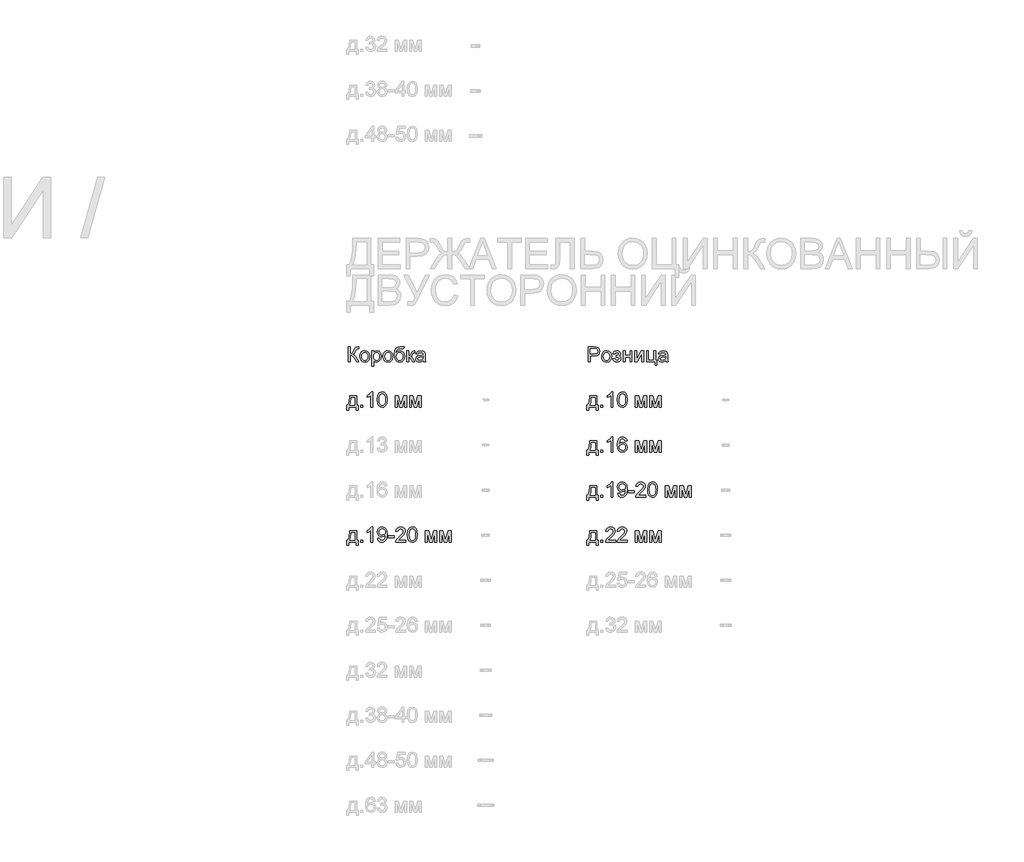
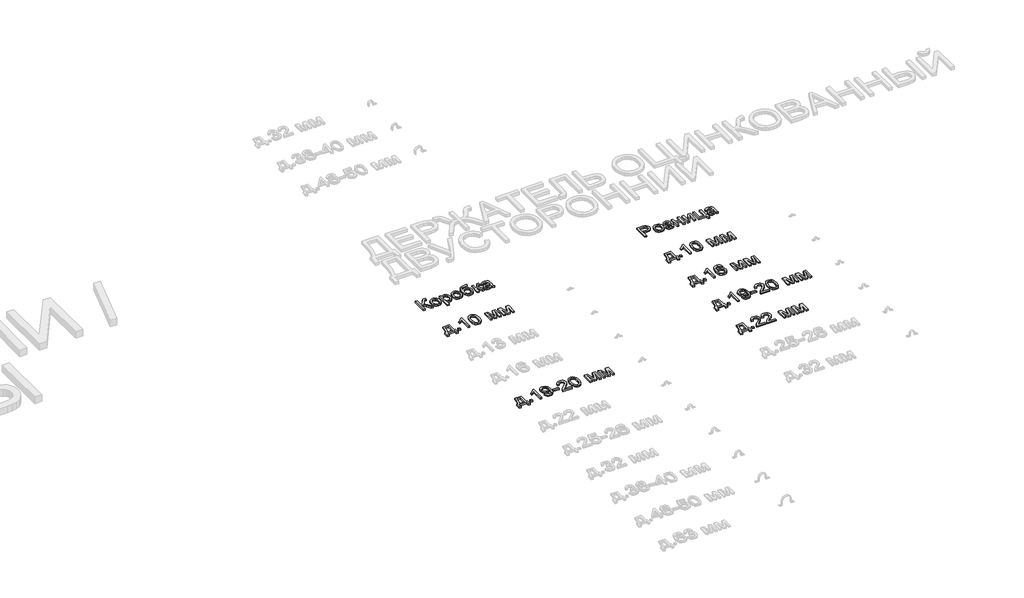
# One storey, part 34 of 98: 8 proxies.
"""IFC4 building model written with IfcOpenShell, lengths in millimetres."""

from ifc_helpers import new_model, si_unit, origin, origin_with_axes, place, context, project, spatial, polyline, outline, extrude, element, save

model = new_model("IFC4")

# Units and contexts
model_context = context("Model", 3, world=origin())
ifc_project = project(units=[si_unit("LENGTHUNIT", "METRE", prefix="MILLI")], contexts=[model_context])

# Site, building, storey
site = spatial("IfcSite", under=ifc_project)
building = spatial("IfcBuilding", under=site)
storey = spatial("IfcBuildingStorey", under=building, Name="Этаж 01", Elevation=0.0)

# Proxies
placement = place(None, origin())
element("IfcBuildingElementProxy", 1, Name="100", ObjectType="100", at=placement, inside=storey, context=model_context, shape_type="SweptSolid", body=[
    extrude(outline(polyline([(-36.4035925, -36629.705741), (-23.8465538, -36629.705741), (-23.8465538, -36673.6553767), (-9.8057243, -36670.332176), (-0.0078005, -36653.5199688), (6.9206438, -36639.4791394), (14.768793, -36632.5261697), (25.9891938, -36629.705741), (34.2297505, -36629.8528938), (34.2297505, -36642.4099326), (31.4583728, -36642.3363562), (28.6869951, -36642.2627798), (18.8768086, -36645.2794122), (11.4210668, -36658.2043329), (2.5305853, -36673.9496823), (-6.1391671, -36679.1490812), (3.5545235, -36684.8267266), (13.113324, -36696.6602641), (34.2297505, -36730.1620512), (19.6616235, -36730.1620512), (1.807084, -36701.859663), (-10.7622175, -36687.0830695), (-23.8465538, -36683.0731558), (-23.8465538, -36730.1620512), (-36.4035925, -36730.1620512), (-36.4035925, -36629.705741)])), origin_with_axes(), (0.0, 0.0, 1.0), 10.0),
    extrude(outline(polyline([(40.5082699, -36693.2757498), (43.2244653, -36675.4886553), (51.3730515, -36662.9867989), (61.4407554, -36656.8615636), (73.4950221, -36654.8198186), (86.6866574, -36657.3060877), (97.2234108, -36664.7648952), (104.1303953, -36676.6076297), (106.4327234, -36692.2456802), (102.361496, -36714.58838), (90.5034331, -36727.2312579), (73.4950221, -36731.731681), (60.1439714, -36729.2546089), (49.6194807, -36721.8233926), (42.7860726, -36709.7323377), (40.5082699, -36693.2757498)]), holes=[polyline([(53.0653087, -36693.2512243), (54.5184426, -36704.6157123), (58.8778442, -36712.7121819), (65.4384065, -36717.5590272), (73.4950221, -36719.1746422), (81.5148496, -36717.5498301), (88.0631492, -36712.6753937), (92.4225508, -36704.4716252), (93.8756847, -36692.8588169), (92.4133537, -36681.8254227), (88.026361, -36673.8393177), (81.4688644, -36668.9924724), (73.4950221, -36667.3768573), (65.4384065, -36668.9863411), (58.8778442, -36673.8147922), (54.5184426, -36681.8928677), (53.0653087, -36693.2512243)])]), origin_with_axes(), (0.0, 0.0, 1.0), 10.0),
    extrude(outline(polyline([(120.5593921, -36758.4153884), (120.5593921, -36656.3894484), (133.1164308, -36656.3894484), (133.1164308, -36668.7012325), (141.7984459, -36658.290172), (153.5216188, -36654.8198186), (169.4386465, -36659.6758609), (179.8374442, -36673.3610711), (183.3445859, -36692.7116641), (179.3837231, -36713.0555384), (167.8812794, -36726.9124269), (152.0010399, -36731.731681), (141.0749447, -36728.5065822), (133.1164308, -36720.3518646), (133.1164308, -36758.4153884), (120.5593921, -36758.4153884)]), holes=[polyline([(133.1164308, -36693.864361), (134.4745285, -36705.12155), (138.5488216, -36712.9942247), (144.5606266, -36717.6295379), (151.7312598, -36719.1746422), (159.018389, -36717.5743556), (165.1834781, -36712.7734955), (169.3865299, -36704.6126466), (170.7875471, -36692.9323933), (169.4202524, -36681.7365179), (165.3183681, -36673.7534786), (159.3157603, -36668.9710126), (152.2462946, -36667.3768573), (145.1492378, -36669.0721802), (138.9167036, -36674.1581488), (134.566499, -36682.4753475), (133.1164308, -36693.864361)])]), origin_with_axes(), (0.0, 0.0, 1.0), 10.0),
    extrude(outline(polyline([(194.3319948, -36693.2757498), (197.0481902, -36675.4886553), (205.1967764, -36662.9867989), (215.2644804, -36656.8615636), (227.3187471, -36654.8198186), (240.5103823, -36657.3060877), (251.0471358, -36664.7648952), (257.9541202, -36676.6076297), (260.2564484, -36692.2456802), (256.185221, -36714.58838), (244.327158, -36727.2312579), (227.3187471, -36731.731681), (213.9676963, -36729.2546089), (203.4432056, -36721.8233926), (196.6097975, -36709.7323377), (194.3319948, -36693.2757498)]), holes=[polyline([(206.8890336, -36693.2512243), (208.3421675, -36704.6157123), (212.7015691, -36712.7121819), (219.2621314, -36717.5590272), (227.3187471, -36719.1746422), (235.3385746, -36717.5498301), (241.8868741, -36712.6753937), (246.2462757, -36704.4716252), (247.6994096, -36692.8588169), (246.2370787, -36681.8254227), (241.8500859, -36673.8393177), (235.2925893, -36668.9924724), (227.3187471, -36667.3768573), (219.2621314, -36668.9863411), (212.7015691, -36673.8147922), (208.3421675, -36681.8928677), (206.8890336, -36693.2512243)])]), origin_with_axes(), (0.0, 0.0, 1.0), 10.0),
    extrude(outline(polyline([(326.1809019, -36628.1361112), (337.1683108, -36628.1361112), (333.9309493, -36637.934035), (327.5298025, -36641.4779649), (312.1523351, -36642.2627798), (291.4405788, -36645.1567848), (283.4943277, -36654.4274111), (280.8087892, -36670.8349481), (291.6858335, -36658.8174696), (305.7021375, -36654.8198186), (318.7680797, -36657.36127), (329.3692125, -36664.9856244), (336.3957586, -36676.9448549), (338.7379407, -36692.4909349), (334.0903648, -36714.0978707), (323.0661677, -36727.1331561), (305.7021375, -36731.731681), (294.3683064, -36730.250956), (285.873298, -36725.8087809), (275.0207791, -36710.6520427), (271.2438573, -36678.4868936), (273.6258932, -36654.3936886), (280.772001, -36639.6998686), (292.8599902, -36632.2042729), (310.0676705, -36629.705741), (324.0471863, -36629.4236982), (326.1809019, -36628.1361112)]), holes=[polyline([(326.1809019, -36692.0985274), (324.8197385, -36682.2178302), (320.7362484, -36674.3053016), (314.1756861, -36669.1089684), (305.3833064, -36667.3768573), (296.2169134, -36669.2070703), (289.4172278, -36674.697709), (285.204979, -36683.2478997), (283.8008961, -36694.2567684), (285.3521318, -36704.928412), (290.005839, -36712.7612328), (296.9342833, -36717.5712899), (305.30973, -36719.1746422), (313.7280964, -36717.3199039), (320.3928918, -36711.7556887), (324.7338994, -36703.1319216), (326.1809019, -36692.0985274)])]), origin_with_axes(), (0.0, 0.0, 1.0), 10.0),
    extrude(outline(polyline([(354.4342391, -36656.3894484), (366.9912779, -36656.3894484), (366.9912779, -36687.7820453), (375.4035129, -36685.5257024), (382.2951689, -36672.3800525), (388.0218653, -36661.0370243), (393.0741114, -36657.3459416), (402.2588985, -36656.3894484), (404.6623942, -36656.3894484), (404.6623942, -36669.0200636), (401.2778798, -36668.9464872), (395.1465133, -36670.2708624), (390.8300312, -36678.5359445), (385.7655224, -36687.475477), (378.6653999, -36691.8532727), (386.5871255, -36696.7399719), (394.3616983, -36707.0345364), (407.8016539, -36730.1620512), (393.5278325, -36730.1620512), (380.3576571, -36707.5250457), (373.7357811, -36697.9478511), (366.9912779, -36695.6301946), (366.9912779, -36730.1620512), (354.4342391, -36730.1620512), (354.4342391, -36656.3894484)])), origin_with_axes(), (0.0, 0.0, 1.0), 10.0),
    extrude(outline(polyline([(462.7386985, -36720.7442721), (450.5618045, -36729.2546089), (437.1095862, -36731.731681), (426.6157523, -36730.2417589), (418.874902, -36725.7719927), (414.1016331, -36718.9845699), (412.5105434, -36710.5416781), (414.9140391, -36700.6088642), (421.2293467, -36693.3983771), (430.0217264, -36689.2780988), (440.886508, -36687.3896379), (462.6651221, -36683.0731558), (462.7386985, -36680.2772526), (459.2806078, -36671.0066263), (445.3991938, -36667.3768573), (432.6950022, -36669.7926158), (426.637212, -36678.3642663), (414.0801733, -36676.7946364), (419.5125641, -36664.5319032), (430.4509221, -36657.3459416), (447.0178746, -36654.8198186), (462.2359264, -36657.051636), (470.8321024, -36662.6557051), (474.6826006, -36671.1783046), (475.2957373, -36682.1657135), (475.2957373, -36697.7884356), (475.9333994, -36719.6038379), (478.434997, -36730.1620512), (465.8779582, -36730.1620512), (462.7386985, -36720.7442721)]), holes=[polyline([(462.7386985, -36695.6301946), (442.4806633, -36699.4806928), (431.6771954, -36701.5163065), (426.7843648, -36704.8272444), (425.0675822, -36709.6587613), (428.8077158, -36716.4523155), (439.782862, -36719.1746422), (452.4870536, -36716.1702726), (460.6785593, -36708.8984719), (462.6651221, -36699.1863872), (462.7386985, -36695.6301946)])]), origin_with_axes(), (0.0, 0.0, 1.0), 10.0),
])
element("IfcBuildingElementProxy", 2, Name="100", ObjectType="100", at=placement, inside=storey, context=model_context, shape_type="SweptSolid", body=[
    extrude(outline(polyline([(-26.9858135, -36956.3894484), (20.1030819, -36956.3894484), (20.1030819, -37017.6050124), (29.520861, -37017.6050124), (29.520861, -37050.5672392), (16.9638222, -37050.5672392), (16.9638222, -37030.1620512), (-34.8339627, -37030.1620512), (-34.8339627, -37050.5672392), (-47.3910015, -37050.5672392), (-47.3910015, -37017.6050124), (-39.5428522, -37017.6050124), (-29.8430303, -36993.6558945), (-26.9858135, -36956.3894484)]), holes=[polyline([(-15.9984045, -36968.9464872), (-18.9414605, -36997.5554437), (-25.4161836, -37017.6050124), (7.5460431, -37017.6050124), (7.5460431, -36968.9464872), (-15.9984045, -36968.9464872)])]), origin_with_axes(), (0.0, 0.0, 1.0), 10.0),
    extrude(outline(polyline([(46.7867893, -37030.1620512), (46.7867893, -37017.6050124), (59.3438281, -37017.6050124), (59.3438281, -37030.1620512), (46.7867893, -37030.1620512)])), origin_with_axes(), (0.0, 0.0, 1.0), 10.0),
    extrude(outline(polyline([(126.8379114, -37030.1620512), (114.2808727, -37030.1620512), (114.2808727, -36951.8767626), (102.3860215, -36960.3503112), (89.1667951, -36966.6901443), (89.1667951, -36954.8198186), (107.5731576, -36943.0721202), (118.7445076, -36929.705741), (126.8379114, -36929.705741), (126.8379114, -37030.1620512)])), origin_with_axes(), (0.0, 0.0, 1.0), 10.0),
    extrude(outline(polyline([(156.6608785, -36980.7432365), (160.3519612, -36951.8399744), (171.3148447, -36935.17492), (189.6231053, -36929.705741), (204.2893342, -36932.9431026), (214.4183518, -36942.2750425), (220.3044637, -36957.1374751), (222.5853321, -36980.7432365), (218.9310376, -37009.5238712), (208.0049423, -37026.2257138), (199.7735827, -37030.3551892), (189.6231053, -37031.731681), (176.5755572, -37029.340448), (166.6672688, -37022.1667491), (159.1624761, -37005.1767323), (156.6608785, -36980.7432365)]), holes=[polyline([(169.2179173, -36980.718711), (170.6894453, -37000.4709085), (175.1040292, -37011.9028415), (181.6768542, -37017.3566921), (189.6231053, -37019.1746422), (197.5693564, -37017.3505607), (204.1421814, -37011.878316), (208.5567653, -37000.4402516), (210.0282933, -36980.718711), (208.6058162, -36961.4110376), (204.3383851, -36949.8901998), (197.7778228, -36944.1696348), (189.4759525, -36942.2627798), (181.6155405, -36943.9427742), (175.3002329, -36948.9827576), (170.7384962, -36961.2209653), (169.2179173, -36980.718711)])]), origin_with_axes(), (0.0, 0.0, 1.0), 10.0),
    extrude(outline(polyline([(275.9527468, -36956.3894484), (297.5596827, -36956.3894484), (314.2124743, -37015.4467714), (332.1651157, -36956.3894484), (352.8646093, -36956.3894484), (352.8646093, -37030.1620512), (340.3075705, -37030.1620512), (340.3075705, -36970.7613717), (322.2568273, -37030.1620512), (305.7757139, -37030.1620512), (288.5097856, -36967.9164176), (288.5097856, -37030.1620512), (275.9527468, -37030.1620512), (275.9527468, -36956.3894484)])), origin_with_axes(), (0.0, 0.0, 1.0), 10.0),
    extrude(outline(polyline([(371.7001674, -36956.3894484), (393.3071033, -36956.3894484), (409.9598949, -37015.4467714), (427.9125363, -36956.3894484), (448.6120299, -36956.3894484), (448.6120299, -37030.1620512), (436.0549911, -37030.1620512), (436.0549911, -36970.7613717), (418.0042479, -37030.1620512), (401.5231345, -37030.1620512), (384.2572062, -36967.9164176), (384.2572062, -37030.1620512), (371.7001674, -37030.1620512), (371.7001674, -36956.3894484)])), origin_with_axes(), (0.0, 0.0, 1.0), 10.0),
])
element("IfcBuildingElementProxy", 3, Name="100", ObjectType="100", at=placement, inside=storey, context=model_context, shape_type="SweptSolid", body=[
    extrude(outline(polyline([(-26.9858135, -37856.3894484), (20.1030819, -37856.3894484), (20.1030819, -37917.6050124), (29.520861, -37917.6050124), (29.520861, -37950.5672392), (16.9638222, -37950.5672392), (16.9638222, -37930.1620512), (-34.8339627, -37930.1620512), (-34.8339627, -37950.5672392), (-47.3910015, -37950.5672392), (-47.3910015, -37917.6050124), (-39.5428522, -37917.6050124), (-29.8430303, -37893.6558945), (-26.9858135, -37856.3894484)]), holes=[polyline([(-15.9984045, -37868.9464872), (-18.9414605, -37897.5554437), (-25.4161836, -37917.6050124), (7.5460431, -37917.6050124), (7.5460431, -37868.9464872), (-15.9984045, -37868.9464872)])]), origin_with_axes(), (0.0, 0.0, 1.0), 10.0),
    extrude(outline(polyline([(46.7867893, -37930.1620512), (46.7867893, -37917.6050124), (59.3438281, -37917.6050124), (59.3438281, -37930.1620512), (46.7867893, -37930.1620512)])), origin_with_axes(), (0.0, 0.0, 1.0), 10.0),
    extrude(outline(polyline([(126.8379114, -37930.1620512), (114.2808727, -37930.1620512), (114.2808727, -37851.8767626), (102.3860215, -37860.3503112), (89.1667951, -37866.6901443), (89.1667951, -37854.8198186), (107.5731576, -37843.0721202), (118.7445076, -37829.705741), (126.8379114, -37829.705741), (126.8379114, -37930.1620512)])), origin_with_axes(), (0.0, 0.0, 1.0), 10.0),
    extrude(outline(polyline([(158.2305084, -37905.0479736), (170.7875471, -37903.4783438), (176.4284044, -37915.4590341), (187.1215077, -37919.1746422), (197.2873135, -37916.7834093), (204.1789696, -37910.3945253), (208.2869852, -37899.4806928), (210.1018697, -37884.9125658), (210.0282933, -37882.4600191), (199.9851148, -37891.9759001), (186.2140655, -37895.6301946), (174.7637384, -37893.3983771), (165.232529, -37886.7029248), (158.8037911, -37876.3593094), (156.6608785, -37863.1830026), (158.9080244, -37849.5713688), (165.6494619, -37838.9027909), (175.7754139, -37832.0050035), (188.1761028, -37829.705741), (206.0674305, -37834.9541908), (218.3792146, -37849.9147253), (222.5853321, -37878.0209097), (218.3914773, -37908.5183271), (213.17675, -37918.509389), (205.9202777, -37925.7965182), (196.9347599, -37930.2478903), (186.5328965, -37931.731681), (175.7968736, -37929.9811759), (167.2313545, -37924.7296604), (161.2410094, -37916.3082284), (158.2305084, -37905.0479736)]), holes=[polyline([(210.0282933, -37862.888697), (208.6732613, -37854.3783602), (204.6081652, -37847.8300607), (198.298989, -37843.6546), (190.2117165, -37842.2627798), (181.824007, -37843.7618989), (175.1040292, -37848.2592563), (170.6894453, -37855.1417153), (169.2179173, -37863.7961392), (170.6097375, -37871.5553837), (174.7851982, -37877.7143414), (181.339629, -37881.7334522), (189.86836, -37883.0731558), (204.3506478, -37877.7143414), (208.6088819, -37871.3285231), (210.0282933, -37862.888697)])]), origin_with_axes(), (0.0, 0.0, 1.0), 10.0),
    extrude(outline(polyline([(230.4334813, -37900.3390841), (230.4334813, -37887.7820453), (269.6742274, -37887.7820453), (269.6742274, -37900.3390841), (230.4334813, -37900.3390841)])), origin_with_axes(), (0.0, 0.0, 1.0), 10.0),
    extrude(outline(polyline([(345.0164601, -37917.6050124), (345.0164601, -37930.1620512), (279.0920065, -37930.1620512), (280.4409072, -37921.5045616), (288.0683272, -37908.1749706), (303.7891511, -37893.6191063), (325.4696634, -37872.6988835), (330.8897914, -37858.474113), (325.7762317, -37846.9594066), (312.4221153, -37842.2627798), (298.5039131, -37846.849042), (293.2186751, -37859.5287081), (280.6616364, -37857.9590783), (283.7058599, -37845.812841), (290.2878819, -37836.9407536), (300.0643459, -37831.5144942), (312.6918954, -37829.705741), (325.4114154, -37831.7168293), (335.1694853, -37837.750094), (341.377494, -37846.7632029), (343.4468302, -37857.7138236), (341.2150128, -37869.6209375), (333.7960592, -37881.9327216), (315.8066296, -37899.1373362), (301.36113, -37911.2161284), (295.6957472, -37917.6050124), (345.0164601, -37917.6050124)])), origin_with_axes(), (0.0, 0.0, 1.0), 10.0),
    extrude(outline(polyline([(357.5734988, -37880.7432365), (361.2645815, -37851.8399744), (372.227465, -37835.17492), (390.5357256, -37829.705741), (405.2019545, -37832.9431026), (415.3309721, -37842.2750425), (421.217084, -37857.1374751), (423.4979524, -37880.7432365), (419.8436579, -37909.5238712), (408.9175626, -37926.2257138), (400.686203, -37930.3551892), (390.5357256, -37931.731681), (377.4881775, -37929.340448), (367.5798891, -37922.1667491), (360.0750964, -37905.1767323), (357.5734988, -37880.7432365)]), holes=[polyline([(370.1305376, -37880.718711), (371.6020656, -37900.4709085), (376.0166495, -37911.9028415), (382.5894745, -37917.3566921), (390.5357256, -37919.1746422), (398.4819767, -37917.3505607), (405.0548017, -37911.878316), (409.4693856, -37900.4402516), (410.9409136, -37880.718711), (409.5184365, -37861.4110376), (405.2510054, -37849.8901998), (398.6904431, -37844.1696348), (390.3885728, -37842.2627798), (382.5281608, -37843.9427742), (376.2128532, -37848.9827576), (371.6511165, -37861.2209653), (370.1305376, -37880.718711)])]), origin_with_axes(), (0.0, 0.0, 1.0), 10.0),
    extrude(outline(polyline([(476.8653671, -37856.3894484), (498.472303, -37856.3894484), (515.1250946, -37915.4467714), (533.077736, -37856.3894484), (553.7772296, -37856.3894484), (553.7772296, -37930.1620512), (541.2201908, -37930.1620512), (541.2201908, -37870.7613717), (523.1694476, -37930.1620512), (506.6883342, -37930.1620512), (489.4224059, -37867.9164176), (489.4224059, -37930.1620512), (476.8653671, -37930.1620512), (476.8653671, -37856.3894484)])), origin_with_axes(), (0.0, 0.0, 1.0), 10.0),
    extrude(outline(polyline([(572.6127877, -37856.3894484), (594.2197236, -37856.3894484), (610.8725152, -37915.4467714), (628.8251566, -37856.3894484), (649.5246502, -37856.3894484), (649.5246502, -37930.1620512), (636.9676114, -37930.1620512), (636.9676114, -37870.7613717), (618.9168682, -37930.1620512), (602.4357548, -37930.1620512), (585.1698265, -37867.9164176), (585.1698265, -37930.1620512), (572.6127877, -37930.1620512), (572.6127877, -37856.3894484)])), origin_with_axes(), (0.0, 0.0, 1.0), 10.0),
])
element("IfcBuildingElementProxy", 4, Name="100", ObjectType="100", at=placement, inside=storey, context=model_context, shape_type="SweptSolid", body=[
    extrude(outline(polyline([(1563.5964075, -36730.1620512), (1563.5964075, -36629.705741), (1600.8260654, -36629.705741), (1615.8356508, -36630.6622342), (1628.0370703, -36635.358861), (1635.9465332, -36645.0709457), (1638.9386401, -36658.7684186), (1636.9183548, -36670.6080875), (1630.8574989, -36680.4734564), (1619.5236678, -36687.1321205), (1601.6844567, -36689.3516752), (1576.1534462, -36689.3516752), (1576.1534462, -36730.1620512), (1563.5964075, -36730.1620512)]), holes=[polyline([(1576.1534462, -36676.7946364), (1602.4202207, -36676.7946364), (1620.9124223, -36672.1838487), (1625.0143065, -36666.634962), (1626.3816013, -36659.209877), (1623.1565025, -36648.8110793), (1614.6829538, -36643.1211711), (1602.1259151, -36642.2627798), (1576.1534462, -36642.2627798), (1576.1534462, -36676.7946364)])]), origin_with_axes(), (0.0, 0.0, 1.0), 10.0),
    extrude(outline(polyline([(1651.4956788, -36693.2757498), (1654.2118742, -36675.4886553), (1662.3604604, -36662.9867989), (1672.4281644, -36656.8615636), (1684.4824311, -36654.8198186), (1697.6740663, -36657.3060877), (1708.2108198, -36664.7648952), (1715.1178042, -36676.6076297), (1717.4201324, -36692.2456802), (1713.348905, -36714.58838), (1701.490842, -36727.2312579), (1684.4824311, -36731.731681), (1671.1313803, -36729.2546089), (1660.6068896, -36721.8233926), (1653.7734815, -36709.7323377), (1651.4956788, -36693.2757498)]), holes=[polyline([(1664.0527176, -36693.2512243), (1665.5058515, -36704.6157123), (1669.8652531, -36712.7121819), (1676.4258154, -36717.5590272), (1684.4824311, -36719.1746422), (1692.5022586, -36717.5498301), (1699.0505581, -36712.6753937), (1703.4099597, -36704.4716252), (1704.8630936, -36692.8588169), (1703.4007627, -36681.8254227), (1699.0137699, -36673.8393177), (1692.4562733, -36668.9924724), (1684.4824311, -36667.3768573), (1676.4258154, -36668.9863411), (1669.8652531, -36673.8147922), (1665.5058515, -36681.8928677), (1664.0527176, -36693.2512243)])]), origin_with_axes(), (0.0, 0.0, 1.0), 10.0),
    extrude(outline(polyline([(1748.8127293, -36697.1998244), (1748.8127293, -36684.6427856), (1758.7210177, -36684.1522763), (1763.7242128, -36681.5403141), (1766.0786576, -36676.0833979), (1762.9271352, -36669.7435648), (1754.7969431, -36667.3768573), (1746.3969709, -36669.7313021), (1740.9645801, -36676.7946364), (1726.8379114, -36675.2250066), (1736.280216, -36659.9211156), (1753.5216188, -36654.8198186), (1764.0185184, -36656.37412), (1771.9647695, -36661.0370243), (1776.9679647, -36667.8581696), (1778.6356964, -36675.8871942), (1776.2628575, -36683.6862924), (1769.1443409, -36689.7195572), (1777.4462112, -36697.5431809), (1780.2053262, -36708.80037), (1778.4548211, -36718.0434051), (1773.2033056, -36725.3673225), (1764.806399, -36730.1405914), (1753.6197207, -36731.731681), (1742.678297, -36730.260153), (1734.3059159, -36725.8455691), (1728.5025775, -36718.4879292), (1725.2682816, -36708.1872333), (1739.3949502, -36706.6176035), (1745.0603329, -36715.8882298), (1754.8214685, -36719.1746422), (1763.993993, -36716.0231198), (1767.6482874, -36707.9665041), (1765.3796818, -36701.3691537), (1760.5481649, -36697.8374865), (1751.2652759, -36697.126248), (1748.8127293, -36697.1998244)])), origin_with_axes(), (0.0, 0.0, 1.0), 10.0),
    extrude(outline(polyline([(1795.9016247, -36656.3894484), (1808.4586634, -36656.3894484), (1808.4586634, -36684.6427856), (1841.4208902, -36684.6427856), (1841.4208902, -36656.3894484), (1853.977929, -36656.3894484), (1853.977929, -36730.1620512), (1841.4208902, -36730.1620512), (1841.4208902, -36697.1998244), (1808.4586634, -36697.1998244), (1808.4586634, -36730.1620512), (1795.9016247, -36730.1620512), (1795.9016247, -36656.3894484)])), origin_with_axes(), (0.0, 0.0, 1.0), 10.0),
    extrude(outline(polyline([(1872.8134871, -36656.3894484), (1885.3705259, -36656.3894484), (1885.3705259, -36712.6508682), (1916.2235626, -36656.3894484), (1932.4594213, -36656.3894484), (1932.4594213, -36730.1620512), (1919.9023825, -36730.1620512), (1919.9023825, -36674.2439879), (1889.2455496, -36730.1620512), (1872.8134871, -36730.1620512), (1872.8134871, -36656.3894484)])), origin_with_axes(), (0.0, 0.0, 1.0), 10.0),
    extrude(outline(polyline([(1951.2949794, -36656.3894484), (1963.8520182, -36656.3894484), (1963.8520182, -36717.6050124), (1999.9535047, -36717.6050124), (1999.9535047, -36656.3894484), (2012.5105434, -36656.3894484), (2012.5105434, -36717.6050124), (2020.3586927, -36717.6050124), (2020.3586927, -36750.5672392), (2007.8016539, -36750.5672392), (2007.8016539, -36730.1620512), (1951.2949794, -36730.1620512), (1951.2949794, -36656.3894484)])), origin_with_axes(), (0.0, 0.0, 1.0), 10.0),
    extrude(outline(polyline([(2078.434997, -36720.7442721), (2066.2581029, -36729.2546089), (2052.8058846, -36731.731681), (2042.3120507, -36730.2417589), (2034.5712004, -36725.7719927), (2029.7979315, -36718.9845699), (2028.2068419, -36710.5416781), (2030.6103376, -36700.6088642), (2036.9256452, -36693.3983771), (2045.7180249, -36689.2780988), (2056.5828065, -36687.3896379), (2078.3614206, -36683.0731558), (2078.434997, -36680.2772526), (2074.9769062, -36671.0066263), (2061.0954923, -36667.3768573), (2048.3913007, -36669.7926158), (2042.3335105, -36678.3642663), (2029.7764717, -36676.7946364), (2035.2088625, -36664.5319032), (2046.1472205, -36657.3459416), (2062.714173, -36654.8198186), (2077.9322249, -36657.051636), (2086.5284009, -36662.6557051), (2090.3788991, -36671.1783046), (2090.9920357, -36682.1657135), (2090.9920357, -36697.7884356), (2091.6296979, -36719.6038379), (2094.1312954, -36730.1620512), (2081.5742567, -36730.1620512), (2078.434997, -36720.7442721)]), holes=[polyline([(2078.434997, -36695.6301946), (2058.1769618, -36699.4806928), (2047.3734938, -36701.5163065), (2042.4806633, -36704.8272444), (2040.7638807, -36709.6587613), (2044.5040143, -36716.4523155), (2055.4791605, -36719.1746422), (2068.183352, -36716.1702726), (2076.3748578, -36708.8984719), (2078.3614206, -36699.1863872), (2078.434997, -36695.6301946)])]), origin_with_axes(), (0.0, 0.0, 1.0), 10.0),
])
element("IfcBuildingElementProxy", 5, Name="100", ObjectType="100", at=placement, inside=storey, context=model_context, shape_type="SweptSolid", body=[
    extrude(outline(polyline([(1573.0141865, -36956.3894484), (1620.1030819, -36956.3894484), (1620.1030819, -37017.6050124), (1629.520861, -37017.6050124), (1629.520861, -37050.5672392), (1616.9638222, -37050.5672392), (1616.9638222, -37030.1620512), (1565.1660373, -37030.1620512), (1565.1660373, -37050.5672392), (1552.6089985, -37050.5672392), (1552.6089985, -37017.6050124), (1560.4571478, -37017.6050124), (1570.1569697, -36993.6558945), (1573.0141865, -36956.3894484)]), holes=[polyline([(1584.0015955, -36968.9464872), (1581.0585395, -36997.5554437), (1574.5838164, -37017.6050124), (1607.5460431, -37017.6050124), (1607.5460431, -36968.9464872), (1584.0015955, -36968.9464872)])]), origin_with_axes(), (0.0, 0.0, 1.0), 10.0),
    extrude(outline(polyline([(1646.7867893, -37030.1620512), (1646.7867893, -37017.6050124), (1659.3438281, -37017.6050124), (1659.3438281, -37030.1620512), (1646.7867893, -37030.1620512)])), origin_with_axes(), (0.0, 0.0, 1.0), 10.0),
    extrude(outline(polyline([(1726.8379114, -37030.1620512), (1714.2808727, -37030.1620512), (1714.2808727, -36951.8767626), (1702.3860215, -36960.3503112), (1689.1667951, -36966.6901443), (1689.1667951, -36954.8198186), (1707.5731576, -36943.0721202), (1718.7445076, -36929.705741), (1726.8379114, -36929.705741), (1726.8379114, -37030.1620512)])), origin_with_axes(), (0.0, 0.0, 1.0), 10.0),
    extrude(outline(polyline([(1756.6608785, -36980.7432365), (1760.3519612, -36951.8399744), (1771.3148447, -36935.17492), (1789.6231053, -36929.705741), (1804.2893342, -36932.9431026), (1814.4183518, -36942.2750425), (1820.3044637, -36957.1374751), (1822.5853321, -36980.7432365), (1818.9310376, -37009.5238712), (1808.0049423, -37026.2257138), (1799.7735827, -37030.3551892), (1789.6231053, -37031.731681), (1776.5755572, -37029.340448), (1766.6672688, -37022.1667491), (1759.1624761, -37005.1767323), (1756.6608785, -36980.7432365)]), holes=[polyline([(1769.2179173, -36980.718711), (1770.6894453, -37000.4709085), (1775.1040292, -37011.9028415), (1781.6768542, -37017.3566921), (1789.6231053, -37019.1746422), (1797.5693564, -37017.3505607), (1804.1421814, -37011.878316), (1808.5567653, -37000.4402516), (1810.0282933, -36980.718711), (1808.6058162, -36961.4110376), (1804.3383851, -36949.8901998), (1797.7778228, -36944.1696348), (1789.4759525, -36942.2627798), (1781.6155405, -36943.9427742), (1775.3002329, -36948.9827576), (1770.7384962, -36961.2209653), (1769.2179173, -36980.718711)])]), origin_with_axes(), (0.0, 0.0, 1.0), 10.0),
    extrude(outline(polyline([(1875.9527468, -36956.3894484), (1897.5596827, -36956.3894484), (1914.2124743, -37015.4467714), (1932.1651157, -36956.3894484), (1952.8646093, -36956.3894484), (1952.8646093, -37030.1620512), (1940.3075705, -37030.1620512), (1940.3075705, -36970.7613717), (1922.2568273, -37030.1620512), (1905.7757139, -37030.1620512), (1888.5097856, -36967.9164176), (1888.5097856, -37030.1620512), (1875.9527468, -37030.1620512), (1875.9527468, -36956.3894484)])), origin_with_axes(), (0.0, 0.0, 1.0), 10.0),
    extrude(outline(polyline([(1971.7001674, -36956.3894484), (1993.3071033, -36956.3894484), (2009.9598949, -37015.4467714), (2027.9125363, -36956.3894484), (2048.6120299, -36956.3894484), (2048.6120299, -37030.1620512), (2036.0549911, -37030.1620512), (2036.0549911, -36970.7613717), (2018.0042479, -37030.1620512), (2001.5231345, -37030.1620512), (1984.2572062, -36967.9164176), (1984.2572062, -37030.1620512), (1971.7001674, -37030.1620512), (1971.7001674, -36956.3894484)])), origin_with_axes(), (0.0, 0.0, 1.0), 10.0),
])
element("IfcBuildingElementProxy", 6, Name="100", ObjectType="100", at=placement, inside=storey, context=model_context, shape_type="SweptSolid", body=[
    extrude(outline(polyline([(1573.0141865, -37256.3894484), (1620.1030819, -37256.3894484), (1620.1030819, -37317.6050124), (1629.520861, -37317.6050124), (1629.520861, -37350.5672392), (1616.9638222, -37350.5672392), (1616.9638222, -37330.1620512), (1565.1660373, -37330.1620512), (1565.1660373, -37350.5672392), (1552.6089985, -37350.5672392), (1552.6089985, -37317.6050124), (1560.4571478, -37317.6050124), (1570.1569697, -37293.6558945), (1573.0141865, -37256.3894484)]), holes=[polyline([(1584.0015955, -37268.9464872), (1581.0585395, -37297.5554437), (1574.5838164, -37317.6050124), (1607.5460431, -37317.6050124), (1607.5460431, -37268.9464872), (1584.0015955, -37268.9464872)])]), origin_with_axes(), (0.0, 0.0, 1.0), 10.0),
    extrude(outline(polyline([(1646.7867893, -37330.1620512), (1646.7867893, -37317.6050124), (1659.3438281, -37317.6050124), (1659.3438281, -37330.1620512), (1646.7867893, -37330.1620512)])), origin_with_axes(), (0.0, 0.0, 1.0), 10.0),
    extrude(outline(polyline([(1726.8379114, -37330.1620512), (1714.2808727, -37330.1620512), (1714.2808727, -37251.8767626), (1702.3860215, -37260.3503112), (1689.1667951, -37266.6901443), (1689.1667951, -37254.8198186), (1707.5731576, -37243.0721202), (1718.7445076, -37229.705741), (1726.8379114, -37229.705741), (1726.8379114, -37330.1620512)])), origin_with_axes(), (0.0, 0.0, 1.0), 10.0),
    extrude(outline(polyline([(1821.0157022, -37256.3894484), (1808.4586634, -37257.9590783), (1803.700723, -37247.4867041), (1791.1191587, -37242.2627798), (1779.7883933, -37245.3039376), (1771.2167428, -37256.7205422), (1767.6482874, -37279.1000302), (1778.7215355, -37269.0813772), (1792.4435339, -37265.8072275), (1804.0440795, -37268.0451763), (1813.7806896, -37274.7590227), (1820.3841715, -37285.016799), (1822.5853321, -37297.8865375), (1818.4405282, -37315.2137794), (1807.0361864, -37327.4765126), (1790.5795985, -37331.731681), (1776.3333682, -37328.9112524), (1764.9872743, -37320.4499665), (1757.5652551, -37305.5139575), (1755.0912487, -37283.2693595), (1757.8381009, -37258.2595152), (1766.0786576, -37241.1591338), (1777.3297153, -37232.5690892), (1791.9039737, -37229.705741), (1802.9220394, -37231.477706), (1811.7450759, -37236.7936008), (1817.9254935, -37245.2364926), (1821.0157022, -37256.3894484)]), holes=[polyline([(1767.6482874, -37297.6903337), (1770.5545552, -37308.5673781), (1778.2800771, -37316.4645782), (1789.5985798, -37319.1746422), (1797.8851218, -37317.7705593), (1804.3996988, -37313.5583105), (1808.6211447, -37306.9364345), (1810.0282933, -37298.3034704), (1808.6395388, -37290.0169284), (1804.4732752, -37283.6985552), (1797.8483336, -37279.6978385), (1789.083545, -37278.3642663), (1773.8900186, -37283.6985552), (1769.2087202, -37289.8636443), (1767.6482874, -37297.6903337)])]), origin_with_axes(), (0.0, 0.0, 1.0), 10.0),
    extrude(outline(polyline([(1875.9527468, -37256.3894484), (1897.5596827, -37256.3894484), (1914.2124743, -37315.4467714), (1932.1651157, -37256.3894484), (1952.8646093, -37256.3894484), (1952.8646093, -37330.1620512), (1940.3075705, -37330.1620512), (1940.3075705, -37270.7613717), (1922.2568273, -37330.1620512), (1905.7757139, -37330.1620512), (1888.5097856, -37267.9164176), (1888.5097856, -37330.1620512), (1875.9527468, -37330.1620512), (1875.9527468, -37256.3894484)])), origin_with_axes(), (0.0, 0.0, 1.0), 10.0),
    extrude(outline(polyline([(1971.7001674, -37256.3894484), (1993.3071033, -37256.3894484), (2009.9598949, -37315.4467714), (2027.9125363, -37256.3894484), (2048.6120299, -37256.3894484), (2048.6120299, -37330.1620512), (2036.0549911, -37330.1620512), (2036.0549911, -37270.7613717), (2018.0042479, -37330.1620512), (2001.5231345, -37330.1620512), (1984.2572062, -37267.9164176), (1984.2572062, -37330.1620512), (1971.7001674, -37330.1620512), (1971.7001674, -37256.3894484)])), origin_with_axes(), (0.0, 0.0, 1.0), 10.0),
])
element("IfcBuildingElementProxy", 7, Name="100", ObjectType="100", at=placement, inside=storey, context=model_context, shape_type="SweptSolid", body=[
    extrude(outline(polyline([(1573.0141865, -37556.3894484), (1620.1030819, -37556.3894484), (1620.1030819, -37617.6050124), (1629.520861, -37617.6050124), (1629.520861, -37650.5672392), (1616.9638222, -37650.5672392), (1616.9638222, -37630.1620512), (1565.1660373, -37630.1620512), (1565.1660373, -37650.5672392), (1552.6089985, -37650.5672392), (1552.6089985, -37617.6050124), (1560.4571478, -37617.6050124), (1570.1569697, -37593.6558945), (1573.0141865, -37556.3894484)]), holes=[polyline([(1584.0015955, -37568.9464872), (1581.0585395, -37597.5554437), (1574.5838164, -37617.6050124), (1607.5460431, -37617.6050124), (1607.5460431, -37568.9464872), (1584.0015955, -37568.9464872)])]), origin_with_axes(), (0.0, 0.0, 1.0), 10.0),
    extrude(outline(polyline([(1646.7867893, -37630.1620512), (1646.7867893, -37617.6050124), (1659.3438281, -37617.6050124), (1659.3438281, -37630.1620512), (1646.7867893, -37630.1620512)])), origin_with_axes(), (0.0, 0.0, 1.0), 10.0),
    extrude(outline(polyline([(1726.8379114, -37630.1620512), (1714.2808727, -37630.1620512), (1714.2808727, -37551.8767626), (1702.3860215, -37560.3503112), (1689.1667951, -37566.6901443), (1689.1667951, -37554.8198186), (1707.5731576, -37543.0721202), (1718.7445076, -37529.705741), (1726.8379114, -37529.705741), (1726.8379114, -37630.1620512)])), origin_with_axes(), (0.0, 0.0, 1.0), 10.0),
    extrude(outline(polyline([(1758.2305084, -37605.0479736), (1770.7875471, -37603.4783438), (1776.4284044, -37615.4590341), (1787.1215077, -37619.1746422), (1797.2873135, -37616.7834093), (1804.1789696, -37610.3945253), (1808.2869852, -37599.4806928), (1810.1018697, -37584.9125658), (1810.0282933, -37582.4600191), (1799.9851148, -37591.9759001), (1786.2140655, -37595.6301946), (1774.7637384, -37593.3983771), (1765.232529, -37586.7029248), (1758.8037911, -37576.3593094), (1756.6608785, -37563.1830026), (1758.9080244, -37549.5713688), (1765.6494619, -37538.9027909), (1775.7754139, -37532.0050035), (1788.1761028, -37529.705741), (1806.0674305, -37534.9541908), (1818.3792146, -37549.9147253), (1822.5853321, -37578.0209097), (1818.3914773, -37608.5183271), (1813.17675, -37618.509389), (1805.9202777, -37625.7965182), (1796.9347599, -37630.2478903), (1786.5328965, -37631.731681), (1775.7968736, -37629.9811759), (1767.2313545, -37624.7296604), (1761.2410094, -37616.3082284), (1758.2305084, -37605.0479736)]), holes=[polyline([(1810.0282933, -37562.888697), (1808.6732613, -37554.3783602), (1804.6081652, -37547.8300607), (1798.298989, -37543.6546), (1790.2117165, -37542.2627798), (1781.824007, -37543.7618989), (1775.1040292, -37548.2592563), (1770.6894453, -37555.1417153), (1769.2179173, -37563.7961392), (1770.6097375, -37571.5553837), (1774.7851982, -37577.7143414), (1781.339629, -37581.7334522), (1789.86836, -37583.0731558), (1804.3506478, -37577.7143414), (1808.6088819, -37571.3285231), (1810.0282933, -37562.888697)])]), origin_with_axes(), (0.0, 0.0, 1.0), 10.0),
    extrude(outline(polyline([(1830.4334813, -37600.3390841), (1830.4334813, -37587.7820453), (1869.6742274, -37587.7820453), (1869.6742274, -37600.3390841), (1830.4334813, -37600.3390841)])), origin_with_axes(), (0.0, 0.0, 1.0), 10.0),
    extrude(outline(polyline([(1945.0164601, -37617.6050124), (1945.0164601, -37630.1620512), (1879.0920065, -37630.1620512), (1880.4409072, -37621.5045616), (1888.0683272, -37608.1749706), (1903.7891511, -37593.6191063), (1925.4696634, -37572.6988835), (1930.8897914, -37558.474113), (1925.7762317, -37546.9594066), (1912.4221153, -37542.2627798), (1898.5039131, -37546.849042), (1893.2186751, -37559.5287081), (1880.6616364, -37557.9590783), (1883.7058599, -37545.812841), (1890.2878819, -37536.9407536), (1900.0643459, -37531.5144942), (1912.6918954, -37529.705741), (1925.4114154, -37531.7168293), (1935.1694853, -37537.750094), (1941.377494, -37546.7632029), (1943.4468302, -37557.7138236), (1941.2150128, -37569.6209375), (1933.7960592, -37581.9327216), (1915.8066296, -37599.1373362), (1901.36113, -37611.2161284), (1895.6957472, -37617.6050124), (1945.0164601, -37617.6050124)])), origin_with_axes(), (0.0, 0.0, 1.0), 10.0),
    extrude(outline(polyline([(1957.5734988, -37580.7432365), (1961.2645815, -37551.8399744), (1972.227465, -37535.17492), (1990.5357256, -37529.705741), (2005.2019545, -37532.9431026), (2015.3309721, -37542.2750425), (2021.217084, -37557.1374751), (2023.4979524, -37580.7432365), (2019.8436579, -37609.5238712), (2008.9175626, -37626.2257138), (2000.686203, -37630.3551892), (1990.5357256, -37631.731681), (1977.4881775, -37629.340448), (1967.5798891, -37622.1667491), (1960.0750964, -37605.1767323), (1957.5734988, -37580.7432365)]), holes=[polyline([(1970.1305376, -37580.718711), (1971.6020656, -37600.4709085), (1976.0166495, -37611.9028415), (1982.5894745, -37617.3566921), (1990.5357256, -37619.1746422), (1998.4819767, -37617.3505607), (2005.0548017, -37611.878316), (2009.4693856, -37600.4402516), (2010.9409136, -37580.718711), (2009.5184365, -37561.4110376), (2005.2510054, -37549.8901998), (1998.6904431, -37544.1696348), (1990.3885728, -37542.2627798), (1982.5281608, -37543.9427742), (1976.2128532, -37548.9827576), (1971.6511165, -37561.2209653), (1970.1305376, -37580.718711)])]), origin_with_axes(), (0.0, 0.0, 1.0), 10.0),
    extrude(outline(polyline([(2076.8653671, -37556.3894484), (2098.472303, -37556.3894484), (2115.1250946, -37615.4467714), (2133.077736, -37556.3894484), (2153.7772296, -37556.3894484), (2153.7772296, -37630.1620512), (2141.2201908, -37630.1620512), (2141.2201908, -37570.7613717), (2123.1694476, -37630.1620512), (2106.6883342, -37630.1620512), (2089.4224059, -37567.9164176), (2089.4224059, -37630.1620512), (2076.8653671, -37630.1620512), (2076.8653671, -37556.3894484)])), origin_with_axes(), (0.0, 0.0, 1.0), 10.0),
    extrude(outline(polyline([(2172.6127877, -37556.3894484), (2194.2197236, -37556.3894484), (2210.8725152, -37615.4467714), (2228.8251566, -37556.3894484), (2249.5246502, -37556.3894484), (2249.5246502, -37630.1620512), (2236.9676114, -37630.1620512), (2236.9676114, -37570.7613717), (2218.9168682, -37630.1620512), (2202.4357548, -37630.1620512), (2185.1698265, -37567.9164176), (2185.1698265, -37630.1620512), (2172.6127877, -37630.1620512), (2172.6127877, -37556.3894484)])), origin_with_axes(), (0.0, 0.0, 1.0), 10.0),
])
element("IfcBuildingElementProxy", 8, Name="100", ObjectType="100", at=placement, inside=storey, context=model_context, shape_type="SweptSolid", body=[
    extrude(outline(polyline([(1573.0141865, -37856.3894484), (1620.1030819, -37856.3894484), (1620.1030819, -37917.6050124), (1629.520861, -37917.6050124), (1629.520861, -37950.5672392), (1616.9638222, -37950.5672392), (1616.9638222, -37930.1620512), (1565.1660373, -37930.1620512), (1565.1660373, -37950.5672392), (1552.6089985, -37950.5672392), (1552.6089985, -37917.6050124), (1560.4571478, -37917.6050124), (1570.1569697, -37893.6558945), (1573.0141865, -37856.3894484)]), holes=[polyline([(1584.0015955, -37868.9464872), (1581.0585395, -37897.5554437), (1574.5838164, -37917.6050124), (1607.5460431, -37917.6050124), (1607.5460431, -37868.9464872), (1584.0015955, -37868.9464872)])]), origin_with_axes(), (0.0, 0.0, 1.0), 10.0),
    extrude(outline(polyline([(1646.7867893, -37930.1620512), (1646.7867893, -37917.6050124), (1659.3438281, -37917.6050124), (1659.3438281, -37930.1620512), (1646.7867893, -37930.1620512)])), origin_with_axes(), (0.0, 0.0, 1.0), 10.0),
    extrude(outline(polyline([(1744.1038398, -37917.6050124), (1744.1038398, -37930.1620512), (1678.1793862, -37930.1620512), (1679.5282869, -37921.5045616), (1687.1557069, -37908.1749706), (1702.8765308, -37893.6191063), (1724.5570431, -37872.6988835), (1729.9771711, -37858.474113), (1724.8636114, -37846.9594066), (1711.509495, -37842.2627798), (1697.5912928, -37846.849042), (1692.3060548, -37859.5287081), (1679.7490161, -37857.9590783), (1682.7932396, -37845.812841), (1689.3752616, -37836.9407536), (1699.1517256, -37831.5144942), (1711.7792751, -37829.705741), (1724.4987951, -37831.7168293), (1734.256865, -37837.750094), (1740.4648737, -37846.7632029), (1742.5342099, -37857.7138236), (1740.3023925, -37869.6209375), (1732.8834389, -37881.9327216), (1714.8940093, -37899.1373362), (1700.4485097, -37911.2161284), (1694.7831269, -37917.6050124), (1744.1038398, -37917.6050124)])), origin_with_axes(), (0.0, 0.0, 1.0), 10.0),
    extrude(outline(polyline([(1821.0157022, -37917.6050124), (1821.0157022, -37930.1620512), (1755.0912487, -37930.1620512), (1756.4401493, -37921.5045616), (1764.0675694, -37908.1749706), (1779.7883933, -37893.6191063), (1801.4689055, -37872.6988835), (1806.8890336, -37858.474113), (1801.7754739, -37846.9594066), (1788.4213574, -37842.2627798), (1774.5031553, -37846.849042), (1769.2179173, -37859.5287081), (1756.6608785, -37857.9590783), (1759.705102, -37845.812841), (1766.2871241, -37836.9407536), (1776.0635881, -37831.5144942), (1788.6911376, -37829.705741), (1801.4106576, -37831.7168293), (1811.1687275, -37837.750094), (1817.3767361, -37846.7632029), (1819.4460724, -37857.7138236), (1817.2142549, -37869.6209375), (1809.7953014, -37881.9327216), (1791.8058718, -37899.1373362), (1777.3603721, -37911.2161284), (1771.6949894, -37917.6050124), (1821.0157022, -37917.6050124)])), origin_with_axes(), (0.0, 0.0, 1.0), 10.0),
    extrude(outline(polyline([(1875.9527468, -37856.3894484), (1897.5596827, -37856.3894484), (1914.2124743, -37915.4467714), (1932.1651157, -37856.3894484), (1952.8646093, -37856.3894484), (1952.8646093, -37930.1620512), (1940.3075705, -37930.1620512), (1940.3075705, -37870.7613717), (1922.2568273, -37930.1620512), (1905.7757139, -37930.1620512), (1888.5097856, -37867.9164176), (1888.5097856, -37930.1620512), (1875.9527468, -37930.1620512), (1875.9527468, -37856.3894484)])), origin_with_axes(), (0.0, 0.0, 1.0), 10.0),
    extrude(outline(polyline([(1971.7001674, -37856.3894484), (1993.3071033, -37856.3894484), (2009.9598949, -37915.4467714), (2027.9125363, -37856.3894484), (2048.6120299, -37856.3894484), (2048.6120299, -37930.1620512), (2036.0549911, -37930.1620512), (2036.0549911, -37870.7613717), (2018.0042479, -37930.1620512), (2001.5231345, -37930.1620512), (1984.2572062, -37867.9164176), (1984.2572062, -37930.1620512), (1971.7001674, -37930.1620512), (1971.7001674, -37856.3894484)])), origin_with_axes(), (0.0, 0.0, 1.0), 10.0),
])

save(model, "model.ifc")
